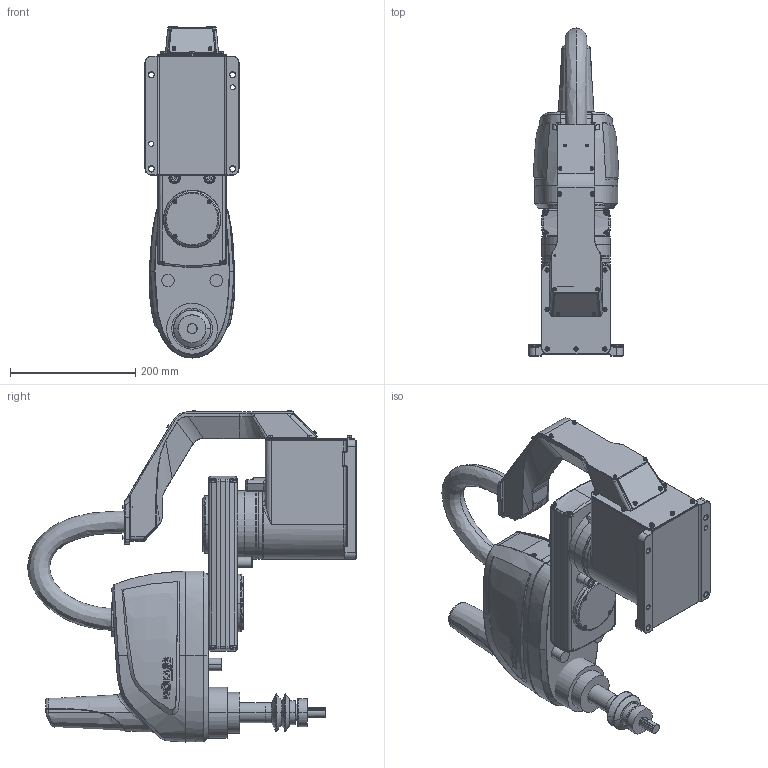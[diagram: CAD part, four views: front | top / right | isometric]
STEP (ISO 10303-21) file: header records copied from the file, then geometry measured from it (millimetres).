
FILE_DESCRIPTION (( 'STEP AP214' ), '1' );
FILE_NAME ('MB04SC-300Íâ·¢Ä£ÐÍ.STEP', '2024-11-06T09:08:07', ( 'abc' ), ( '' ), 'SwSTEP 2.0', 'SolidWorks 2020', '' );
FILE_SCHEMA (( 'AUTOMOTIVE_DESIGN' ));
Length unit declared in the file: millimetre
Products named in the file (6): MB04SC-440000 J4俋楷耀倰1; MB04SC-320000 J2俋楷耀倰; MB04SC-430000 J3俋楷耀倰; MB04SC-300俋楷耀倰; MB04SC-350000俋楷耀倰; MB04SC-410000 J1俋楷耀倰
Assembly tree (5 placements, depth 2):
  MB04SC-300俋楷耀倰
    MB04SC-410000 J1俋楷耀倰
    MB04SC-320000 J2俋楷耀倰
    MB04SC-430000 J3俋楷耀倰
    MB04SC-440000 J4俋楷耀倰1
    MB04SC-350000俋楷耀倰
Bounding box: 150 x 523.66 x 529.58 mm (x, y, z)
Volume: 6777585.3 mm3; surface area: 655858 mm2
Topology: 10 solids, 118 shells, 2719 faces, 7448 edges, 4923 vertices
Faces by surface type: cylinder 921, plane 794, bspline 649, cone 287, torus 52, sphere 16
Entity records: 410224 total; most frequent: CARTESIAN_POINT 347326, ORIENTED_EDGE 13747, DIRECTION 10355, EDGE_CURVE 7293, VERTEX_POINT 4917, AXIS2_PLACEMENT_3D 3926, EDGE_LOOP 2954, B_SPLINE_CURVE_WITH_KNOTS 2818
